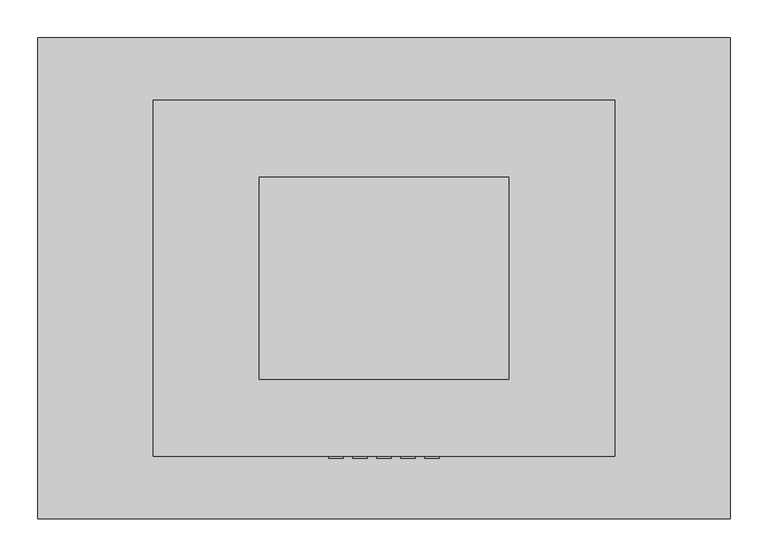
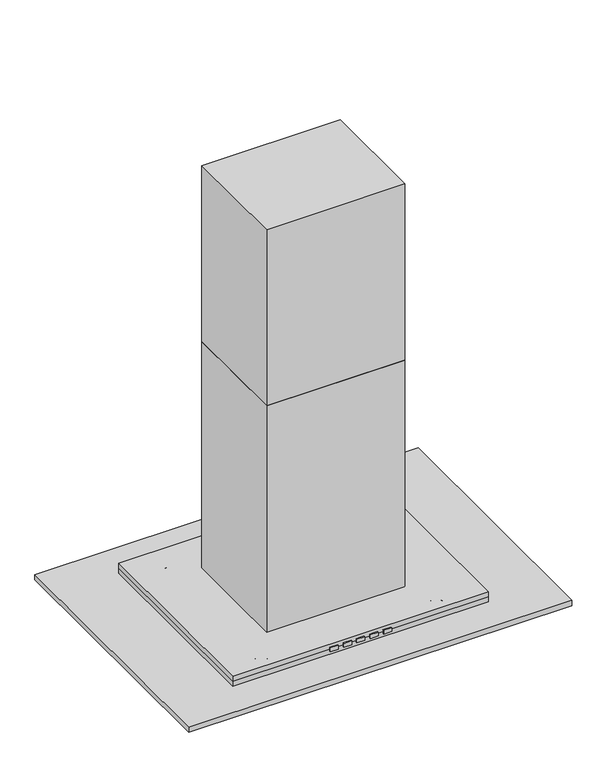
"""IFC4 building model written with IfcOpenShell, lengths in millimetres: proxy geometry, Campana rectangular - isla : Campana rectangular - isla."""

from ifc_helpers import new_model, si_unit, point, frame, frame_2d, origin, place, context, project, spatial, polyline, circle_curve, ellipse_curve, trimmed, segment, composite_curve, outline, extrude, source, transform, mapped, element, save
from ifc_brep_helpers import plane_surface, cylinder_surface, revolved_surface, advanced_brep


def specialty_equipment_230eec82(model_context):
    return source(origin(), model_context, "Body", "SolidModel", [
        extrude(outline(composite_curve([segment(trimmed(circle_curve(frame_2d((-209.0619324, -187.5094756)), 22.225), [point((-231.2869324, -187.5094756))], [point((-186.8369324, -187.5094756))], False, "CARTESIAN"), True, "CONTINUOUS"), segment(trimmed(circle_curve(frame_2d((-209.0619324, -187.5094756)), 22.225), [point((-186.8369324, -187.5094756))], [point((-231.2869324, -187.5094756))], False, "CARTESIAN"), True, "CONTINUOUS")], self_intersect=False)), frame((0.0, 0.0, 1344.6589682), z_axis=(0.0, 0.0, 1.0), x_axis=(1.0, 0.0, 0.0)), (0.0, 0.0, 1.0), 2.9942713),
        extrude(outline(composite_curve([segment(trimmed(circle_curve(frame_2d((209.0619324, -187.5094756)), 22.225), [point((186.8369324, -187.5094756))], [point((231.2869324, -187.5094756))], False, "CARTESIAN"), True, "CONTINUOUS"), segment(trimmed(circle_curve(frame_2d((209.0619324, -187.5094756)), 22.225), [point((231.2869324, -187.5094756))], [point((186.8369324, -187.5094756))], False, "CARTESIAN"), True, "CONTINUOUS")], self_intersect=False)), frame((0.0, 0.0, 1344.6589682), z_axis=(0.0, 0.0, 1.0), x_axis=(1.0, 0.0, 0.0)), (0.0, 0.0, 1.0), 2.9942713),
        extrude(outline(composite_curve([segment(trimmed(circle_curve(frame_2d((-209.0619324, 187.5094756)), 22.225), [point((-231.2869324, 187.5094756))], [point((-186.8369324, 187.5094756))], False, "CARTESIAN"), True, "CONTINUOUS"), segment(trimmed(circle_curve(frame_2d((-209.0619324, 187.5094756)), 22.225), [point((-186.8369324, 187.5094756))], [point((-231.2869324, 187.5094756))], False, "CARTESIAN"), True, "CONTINUOUS")], self_intersect=False)), frame((0.0, 0.0, 1344.6589682), z_axis=(0.0, 0.0, 1.0), x_axis=(1.0, 0.0, 0.0)), (0.0, 0.0, 1.0), 2.9942713),
        extrude(outline(composite_curve([segment(trimmed(circle_curve(frame_2d((209.0619324, 187.5094756)), 22.225), [point((186.8369324, 187.5094756))], [point((231.2869324, 187.5094756))], False, "CARTESIAN"), True, "CONTINUOUS"), segment(trimmed(circle_curve(frame_2d((209.0619324, 187.5094756)), 22.225), [point((231.2869324, 187.5094756))], [point((186.8369324, 187.5094756))], False, "CARTESIAN"), True, "CONTINUOUS")], self_intersect=False)), frame((0.0, 0.0, 1344.6589682), z_axis=(0.0, 0.0, 1.0), x_axis=(1.0, 0.0, 0.0)), (0.0, 0.0, 1.0), 2.9942713),
        extrude(outline(polyline([(-9.525, -234.95), (9.525, -234.95), (9.525, -237.6432213), (-9.525, -237.6432213), (-9.525, -234.95)])), frame((0.0, 0.0, 1366.8375), z_axis=(0.0, 0.0, 1.0), x_axis=(1.0, 0.0, 0.0)), (0.0, 0.0, 1.0), 9.525),
        extrude(outline(polyline([(22.225, -234.95), (41.275, -234.95), (41.275, -237.6432213), (22.225, -237.6432213), (22.225, -234.95)])), frame((0.0, 0.0, 1366.8375), z_axis=(0.0, 0.0, 1.0), x_axis=(1.0, 0.0, 0.0)), (0.0, 0.0, 1.0), 9.525),
        extrude(outline(polyline([(53.975, -234.95), (73.025, -234.95), (73.025, -237.6432213), (53.975, -237.6432213), (53.975, -234.95)])), frame((0.0, 0.0, 1366.8375), z_axis=(0.0, 0.0, 1.0), x_axis=(1.0, 0.0, 0.0)), (0.0, 0.0, 1.0), 9.525),
        extrude(outline(polyline([(-41.275, -234.95), (-22.225, -234.95), (-22.225, -237.6432213), (-41.275, -237.6432213), (-41.275, -234.95)])), frame((0.0, 0.0, 1366.8375), z_axis=(0.0, 0.0, 1.0), x_axis=(1.0, 0.0, 0.0)), (0.0, 0.0, 1.0), 9.525),
        extrude(outline(polyline([(-73.025, -234.95), (-53.975, -234.95), (-53.975, -237.6432213), (-73.025, -237.6432213), (-73.025, -234.95)])), frame((0.0, 0.0, 1366.8375), z_axis=(0.0, 0.0, 1.0), x_axis=(1.0, 0.0, 0.0)), (0.0, 0.0, 1.0), 9.525),
        advanced_brep(
        [(-170.9619324, 187.5094756, 1344.6589682), (-247.1619324, 187.5094756, 1344.6589682), (-247.1619324, 187.5094756, 1346.2), (-170.9619324, 187.5094756, 1346.2), (-186.4738453, 187.5094756, 1344.6589682), (-231.6500195, 187.5094756, 1344.6589682), (-186.4738453, 187.5094756, 1347.6532394), (-231.6500195, 187.5094756, 1347.6532394), (-209.0619324, 187.5094756, 1365.25), (-183.6619324, 187.5094756, 1372.6673942), (-234.4619324, 187.5094756, 1372.6673942), (-209.0619324, 187.5094756, 1372.6673942), (-183.6619324, 187.5094756, 1346.2), (-234.4619324, 187.5094756, 1346.2)],
        [
            (0, 1, circle_curve(frame((-209.0619324, 187.5094756, 1344.6589682), z_axis=(0.0, 0.0, 1.0), x_axis=(-1.0, 0.0, 0.0)), 38.1)),
            (1, 2),
            (2, 3, circle_curve(frame((-209.0619324, 187.5094756, 1346.2), z_axis=(0.0, 0.0, -1.0), x_axis=(-1.0, 0.0, 0.0)), 38.1)),
            (3, 0),
            (1, 0, circle_curve(frame((-209.0619324, 187.5094756, 1344.6589682), z_axis=(0.0, 0.0, 1.0), x_axis=(-1.0, 0.0, 0.0)), 38.1)),
            (3, 2, circle_curve(frame((-209.0619324, 187.5094756, 1346.2), z_axis=(0.0, 0.0, -1.0), x_axis=(-1.0, 0.0, 0.0)), 38.1)),
            (4, 5, circle_curve(frame((-209.0619324, 187.5094756, 1344.6589682), z_axis=(0.0, 0.0, 1.0), x_axis=(-1.0, 0.0, 0.0)), 22.5880871)),
            (5, 1),
            (0, 4),
            (5, 4, circle_curve(frame((-209.0619324, 187.5094756, 1344.6589682), z_axis=(0.0, 0.0, 1.0), x_axis=(-1.0, 0.0, 0.0)), 22.5880871)),
            (6, 7, circle_curve(frame((-209.0619324, 187.5094756, 1347.6532394), z_axis=(0.0, 0.0, 1.0), x_axis=(-1.0, 0.0, 0.0)), 22.5880871)),
            (7, 5),
            (4, 6),
            (7, 6, circle_curve(frame((-209.0619324, 187.5094756, 1347.6532394), z_axis=(0.0, 0.0, 1.0), x_axis=(-1.0, 0.0, 0.0)), 22.5880871)),
            (8, 7, circle_curve(frame((-207.8094645, 187.5094756, 1340.3462864), z_axis=(0.0, -1.0, 0.0), x_axis=(1.0, 0.0, 0.0)), 24.9351886)),
            (6, 8, circle_curve(frame((-210.3144003, 187.5094756, 1340.3462864), z_axis=(0.0, -1.0, 0.0), x_axis=(-1.0, 0.0, 0.0)), 24.9351886)),
            (9, 10, circle_curve(frame((-209.0619324, 187.5094756, 1372.6673942), z_axis=(0.0, 0.0, 1.0), x_axis=(-1.0, 0.0, 0.0)), 25.4)),
            (10, 11),
            (11, 9),
            (10, 9, circle_curve(frame((-209.0619324, 187.5094756, 1372.6673942), z_axis=(0.0, 0.0, 1.0), x_axis=(-1.0, 0.0, 0.0)), 25.4)),
            (12, 13, circle_curve(frame((-209.0619324, 187.5094756, 1346.2), z_axis=(0.0, 0.0, 1.0), x_axis=(-1.0, 0.0, 0.0)), 25.4)),
            (13, 10),
            (9, 12),
            (13, 12, circle_curve(frame((-209.0619324, 187.5094756, 1346.2), z_axis=(0.0, 0.0, 1.0), x_axis=(-1.0, 0.0, 0.0)), 25.4)),
            (2, 13),
            (12, 3),
        ],
        [
            cylinder_surface(frame((-209.0619324, 187.5094756, 1346.2), z_axis=(0.0, 0.0, -1.0), x_axis=(-1.0, 0.0, 0.0)), 38.1),
            plane_surface(frame((-209.0619324, 187.5094756, 1344.6589682), z_axis=(0.0, 0.0, -1.0), x_axis=(-1.0, 0.0, 0.0))),
            revolved_surface(polyline([(-231.65001949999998, 187.5094756, 1344.6589682), (-231.65001949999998, 187.5094756, 1347.6532394)]), (-209.0619324, 187.5094756, 1346.2), (0.0, 0.0, -1.0)),
            revolved_surface(trimmed(ellipse_curve(frame((-207.8094645, 187.5094756, 1340.3462864), z_axis=(0.0, 1.0, 0.0), x_axis=(1.0, 0.0, 0.0)), 24.9351886, 24.9351886), [point((-231.6500195, 187.5094756, 1347.6532394))], [point((-209.0619324, 187.5094756, 1365.25))], True, "CARTESIAN"), (-209.0619324, 187.5094756, 1346.2), (0.0, 0.0, -1.0)),
            plane_surface(frame((-209.0619324, 187.5094756, 1372.6673942), z_axis=(0.0, 0.0, 1.0), x_axis=(-1.0, 0.0, 0.0))),
            cylinder_surface(frame((-209.0619324, 187.5094756, 1346.2), z_axis=(0.0, 0.0, -1.0), x_axis=(-1.0, 0.0, 0.0)), 25.4),
            plane_surface(frame((-209.0619324, 187.5094756, 1346.2), z_axis=(0.0, 0.0, 1.0), x_axis=(-1.0, 0.0, 0.0))),
        ],
        [
            (0, [[1, 2, 3, 4]]),
            (0, [[5, -4, 6, -2]]),
            (1, [[7, 8, -1, 9]]),
            (1, [[10, -9, -5, -8]]),
            (2, [[11, 12, -7, 13]]),
            (2, [[14, -13, -10, -12]]),
            (3, [[15, -11, 16]]),
            (3, [[-16, -14, -15]]),
            (4, [[17, 18, 19]]),
            (4, [[20, -19, -18]]),
            (5, [[21, 22, -17, 23]]),
            (5, [[24, -23, -20, -22]]),
            (6, [[-3, 25, -21, 26]]),
            (6, [[-6, -26, -24, -25]]),
        ],
    ),
        advanced_brep(
        [(-183.6619324, -187.5094756, 1346.2), (-234.4619324, -187.5094756, 1346.2), (-247.1619324, -187.5094756, 1346.2), (-170.9619324, -187.5094756, 1346.2), (-183.6619324, -187.5094756, 1372.6673942), (-234.4619324, -187.5094756, 1372.6673942), (-209.0619324, -187.5094756, 1372.6673942), (-186.4738453, -187.5094756, 1347.6532394), (-231.6500195, -187.5094756, 1347.6532394), (-209.0619324, -187.5094756, 1365.25), (-186.4738453, -187.5094756, 1344.6589682), (-231.6500195, -187.5094756, 1344.6589682), (-170.9619324, -187.5094756, 1344.6589682), (-247.1619324, -187.5094756, 1344.6589682)],
        [
            (0, 1, circle_curve(frame((-209.0619324, -187.5094756, 1346.2), z_axis=(0.0, 0.0, -1.0), x_axis=(-1.0, 0.0, 0.0)), 25.4)),
            (1, 2),
            (2, 3, circle_curve(frame((-209.0619324, -187.5094756, 1346.2), z_axis=(0.0, 0.0, 1.0), x_axis=(-1.0, 0.0, 0.0)), 38.1)),
            (3, 0),
            (1, 0, circle_curve(frame((-209.0619324, -187.5094756, 1346.2), z_axis=(0.0, 0.0, -1.0), x_axis=(-1.0, 0.0, 0.0)), 25.4)),
            (3, 2, circle_curve(frame((-209.0619324, -187.5094756, 1346.2), z_axis=(0.0, 0.0, 1.0), x_axis=(-1.0, 0.0, 0.0)), 38.1)),
            (4, 5, circle_curve(frame((-209.0619324, -187.5094756, 1372.6673942), z_axis=(0.0, 0.0, -1.0), x_axis=(-1.0, 0.0, 0.0)), 25.4)),
            (5, 1),
            (0, 4),
            (5, 4, circle_curve(frame((-209.0619324, -187.5094756, 1372.6673942), z_axis=(0.0, 0.0, -1.0), x_axis=(-1.0, 0.0, 0.0)), 25.4)),
            (6, 5),
            (4, 6),
            (7, 8, circle_curve(frame((-209.0619324, -187.5094756, 1347.6532394), z_axis=(0.0, 0.0, -1.0), x_axis=(-1.0, 0.0, 0.0)), 22.5880871)),
            (8, 9, circle_curve(frame((-207.8094645, -187.5094756, 1340.3462864), z_axis=(0.0, 1.0, 0.0), x_axis=(1.0, 0.0, 0.0)), 24.9351886)),
            (9, 7, circle_curve(frame((-210.3144003, -187.5094756, 1340.3462864), z_axis=(0.0, 1.0, 0.0), x_axis=(-1.0, 0.0, 0.0)), 24.9351886)),
            (8, 7, circle_curve(frame((-209.0619324, -187.5094756, 1347.6532394), z_axis=(0.0, 0.0, -1.0), x_axis=(-1.0, 0.0, 0.0)), 22.5880871)),
            (10, 11, circle_curve(frame((-209.0619324, -187.5094756, 1344.6589682), z_axis=(0.0, 0.0, -1.0), x_axis=(-1.0, 0.0, 0.0)), 22.5880871)),
            (11, 8),
            (7, 10),
            (11, 10, circle_curve(frame((-209.0619324, -187.5094756, 1344.6589682), z_axis=(0.0, 0.0, -1.0), x_axis=(-1.0, 0.0, 0.0)), 22.5880871)),
            (12, 13, circle_curve(frame((-209.0619324, -187.5094756, 1344.6589682), z_axis=(0.0, 0.0, -1.0), x_axis=(-1.0, 0.0, 0.0)), 38.1)),
            (13, 11),
            (10, 12),
            (13, 12, circle_curve(frame((-209.0619324, -187.5094756, 1344.6589682), z_axis=(0.0, 0.0, -1.0), x_axis=(-1.0, 0.0, 0.0)), 38.1)),
            (2, 13),
            (12, 3),
        ],
        [
            plane_surface(frame((-209.0619324, -187.5094756, 1346.2), z_axis=(0.0, 0.0, 1.0), x_axis=(-1.0, 0.0, 0.0))),
            cylinder_surface(frame((-209.0619324, -187.5094756, 1346.2), z_axis=(0.0, 0.0, 1.0), x_axis=(-1.0, 0.0, 0.0)), 25.4),
            plane_surface(frame((-209.0619324, -187.5094756, 1372.6673942), z_axis=(0.0, 0.0, 1.0), x_axis=(-1.0, 0.0, 0.0))),
            revolved_surface(trimmed(ellipse_curve(frame((-207.8094645, -187.5094756, 1340.3462864), z_axis=(0.0, -1.0, 0.0), x_axis=(1.0, 0.0, 0.0)), 24.9351886, 24.9351886), [point((-209.0619324, -187.5094756, 1365.25))], [point((-231.6500195, -187.5094756, 1347.6532394))], True, "CARTESIAN"), (-209.0619324, -187.5094756, 1346.2), (0.0, 0.0, 1.0)),
            revolved_surface(polyline([(-231.65001949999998, -187.5094756, 1347.6532394), (-231.65001949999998, -187.5094756, 1344.6589682)]), (-209.0619324, -187.5094756, 1346.2), (0.0, 0.0, 1.0)),
            plane_surface(frame((-209.0619324, -187.5094756, 1344.6589682), z_axis=(0.0, 0.0, -1.0), x_axis=(-1.0, 0.0, 0.0))),
            cylinder_surface(frame((-209.0619324, -187.5094756, 1346.2), z_axis=(0.0, 0.0, 1.0), x_axis=(-1.0, 0.0, 0.0)), 38.1),
        ],
        [
            (0, [[1, 2, 3, 4]]),
            (0, [[5, -4, 6, -2]]),
            (1, [[7, 8, -1, 9]]),
            (1, [[10, -9, -5, -8]]),
            (2, [[11, -7, 12]]),
            (2, [[-12, -10, -11]]),
            (3, [[13, 14, 15]]),
            (3, [[16, -15, -14]]),
            (4, [[17, 18, -13, 19]]),
            (4, [[20, -19, -16, -18]]),
            (5, [[21, 22, -17, 23]]),
            (5, [[24, -23, -20, -22]]),
            (6, [[-3, 25, -21, 26]]),
            (6, [[-6, -26, -24, -25]]),
        ],
    ),
        advanced_brep(
        [(183.6619324, 187.5094756, 1346.2), (234.4619324, 187.5094756, 1346.2), (247.1619324, 187.5094756, 1346.2), (170.9619324, 187.5094756, 1346.2), (183.6619324, 187.5094756, 1372.6673942), (234.4619324, 187.5094756, 1372.6673942), (209.0619324, 187.5094756, 1372.6673942), (186.4738453, 187.5094756, 1347.6532394), (231.6500195, 187.5094756, 1347.6532394), (209.0619324, 187.5094756, 1365.25), (186.4738453, 187.5094756, 1344.6589682), (231.6500195, 187.5094756, 1344.6589682), (170.9619324, 187.5094756, 1344.6589682), (247.1619324, 187.5094756, 1344.6589682)],
        [
            (0, 1, circle_curve(frame((209.0619324, 187.5094756, 1346.2), z_axis=(0.0, 0.0, -1.0), x_axis=(1.0, 0.0, 0.0)), 25.4)),
            (1, 2),
            (2, 3, circle_curve(frame((209.0619324, 187.5094756, 1346.2), z_axis=(0.0, 0.0, 1.0), x_axis=(1.0, 0.0, 0.0)), 38.1)),
            (3, 0),
            (1, 0, circle_curve(frame((209.0619324, 187.5094756, 1346.2), z_axis=(0.0, 0.0, -1.0), x_axis=(1.0, 0.0, 0.0)), 25.4)),
            (3, 2, circle_curve(frame((209.0619324, 187.5094756, 1346.2), z_axis=(0.0, 0.0, 1.0), x_axis=(1.0, 0.0, 0.0)), 38.1)),
            (4, 5, circle_curve(frame((209.0619324, 187.5094756, 1372.6673942), z_axis=(0.0, 0.0, -1.0), x_axis=(1.0, 0.0, 0.0)), 25.4)),
            (5, 1),
            (0, 4),
            (5, 4, circle_curve(frame((209.0619324, 187.5094756, 1372.6673942), z_axis=(0.0, 0.0, -1.0), x_axis=(1.0, 0.0, 0.0)), 25.4)),
            (6, 5),
            (4, 6),
            (7, 8, circle_curve(frame((209.0619324, 187.5094756, 1347.6532394), z_axis=(0.0, 0.0, -1.0), x_axis=(1.0, 0.0, 0.0)), 22.5880871)),
            (8, 9, circle_curve(frame((207.8094645, 187.5094756, 1340.3462864), z_axis=(0.0, -1.0, 0.0), x_axis=(-1.0, 0.0, 0.0)), 24.9351886)),
            (9, 7, circle_curve(frame((210.3144003, 187.5094756, 1340.3462864), z_axis=(0.0, -1.0, 0.0), x_axis=(1.0, 0.0, 0.0)), 24.9351886)),
            (8, 7, circle_curve(frame((209.0619324, 187.5094756, 1347.6532394), z_axis=(0.0, 0.0, -1.0), x_axis=(1.0, 0.0, 0.0)), 22.5880871)),
            (10, 11, circle_curve(frame((209.0619324, 187.5094756, 1344.6589682), z_axis=(0.0, 0.0, -1.0), x_axis=(1.0, 0.0, 0.0)), 22.5880871)),
            (11, 8),
            (7, 10),
            (11, 10, circle_curve(frame((209.0619324, 187.5094756, 1344.6589682), z_axis=(0.0, 0.0, -1.0), x_axis=(1.0, 0.0, 0.0)), 22.5880871)),
            (12, 13, circle_curve(frame((209.0619324, 187.5094756, 1344.6589682), z_axis=(0.0, 0.0, -1.0), x_axis=(1.0, 0.0, 0.0)), 38.1)),
            (13, 11),
            (10, 12),
            (13, 12, circle_curve(frame((209.0619324, 187.5094756, 1344.6589682), z_axis=(0.0, 0.0, -1.0), x_axis=(1.0, 0.0, 0.0)), 38.1)),
            (2, 13),
            (12, 3),
        ],
        [
            plane_surface(frame((209.0619324, 187.5094756, 1346.2), z_axis=(0.0, 0.0, 1.0), x_axis=(1.0, 0.0, 0.0))),
            cylinder_surface(frame((209.0619324, 187.5094756, 1346.2), z_axis=(0.0, 0.0, 1.0), x_axis=(1.0, 0.0, 0.0)), 25.4),
            plane_surface(frame((209.0619324, 187.5094756, 1372.6673942), z_axis=(0.0, 0.0, 1.0), x_axis=(1.0, 0.0, 0.0))),
            revolved_surface(trimmed(ellipse_curve(frame((207.8094645, 187.5094756, 1340.3462864), z_axis=(0.0, 1.0, 0.0), x_axis=(-1.0, 0.0, 0.0)), 24.9351886, 24.9351886), [point((209.0619324, 187.5094756, 1365.25))], [point((231.6500195, 187.5094756, 1347.6532394))], True, "CARTESIAN"), (209.0619324, 187.5094756, 1346.2), (0.0, 0.0, 1.0)),
            revolved_surface(polyline([(231.65001949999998, 187.5094756, 1347.6532394), (231.65001949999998, 187.5094756, 1344.6589682)]), (209.0619324, 187.5094756, 1346.2), (0.0, 0.0, 1.0)),
            plane_surface(frame((209.0619324, 187.5094756, 1344.6589682), z_axis=(0.0, 0.0, -1.0), x_axis=(1.0, 0.0, 0.0))),
            cylinder_surface(frame((209.0619324, 187.5094756, 1346.2), z_axis=(0.0, 0.0, 1.0), x_axis=(1.0, 0.0, 0.0)), 38.1),
        ],
        [
            (0, [[1, 2, 3, 4]]),
            (0, [[5, -4, 6, -2]]),
            (1, [[7, 8, -1, 9]]),
            (1, [[10, -9, -5, -8]]),
            (2, [[11, -7, 12]]),
            (2, [[-12, -10, -11]]),
            (3, [[13, 14, 15]]),
            (3, [[16, -15, -14]]),
            (4, [[17, 18, -13, 19]]),
            (4, [[20, -19, -16, -18]]),
            (5, [[21, 22, -17, 23]]),
            (5, [[24, -23, -20, -22]]),
            (6, [[-3, 25, -21, 26]]),
            (6, [[-6, -26, -24, -25]]),
        ],
    ),
        extrude(outline(polyline([(1358.9, 241.3), (1358.9, -241.3), (1346.2, -241.3), (1346.2, -236.5375), (1352.55, -236.5375), (1352.55, -233.3625), (1349.375, -233.3625), (1349.375, -230.1875), (1352.55, -230.1875), (1352.55, -227.0125), (1349.375, -227.0125), (1349.375, -223.8375), (1352.55, -223.8375), (1352.55, -220.6625), (1349.375, -220.6625), (1349.375, -217.4875), (1352.55, -217.4875), (1352.55, -214.3125), (1349.375, -214.3125), (1349.375, -211.1375), (1352.55, -211.1375), (1352.55, -207.9625), (1349.375, -207.9625), (1349.375, -204.7875), (1352.55, -204.7875), (1352.55, -201.6125), (1349.375, -201.6125), (1349.375, -198.4375), (1352.55, -198.4375), (1352.55, -195.2625), (1349.375, -195.2625), (1349.375, -192.0875), (1352.55, -192.0875), (1352.55, -188.9125), (1349.375, -188.9125), (1349.375, -185.7375), (1352.55, -185.7375), (1352.55, -182.5625), (1349.375, -182.5625), (1349.375, -179.3875), (1352.55, -179.3875), (1352.55, -176.2125), (1349.375, -176.2125), (1349.375, -173.0375), (1352.55, -173.0375), (1352.55, -169.8625), (1349.375, -169.8625), (1349.375, -166.6875), (1352.55, -166.6875), (1352.55, -163.5125), (1349.375, -163.5125), (1349.375, -160.3375), (1352.55, -160.3375), (1352.55, -157.1625), (1349.375, -157.1625), (1349.375, -153.9875), (1352.55, -153.9875), (1352.55, -150.8125), (1349.375, -150.8125), (1349.375, -147.6375), (1352.55, -147.6375), (1352.55, -144.4625), (1349.375, -144.4625), (1349.375, -141.2875), (1352.55, -141.2875), (1352.55, -138.1125), (1349.375, -138.1125), (1349.375, -134.9375), (1352.55, -134.9375), (1352.55, -131.7625), (1349.375, -131.7625), (1349.375, -128.5875), (1352.55, -128.5875), (1352.55, -125.4125), (1349.375, -125.4125), (1349.375, -122.2375), (1352.55, -122.2375), (1352.55, -119.0625), (1349.375, -119.0625), (1349.375, -115.8875), (1352.55, -115.8875), (1352.55, -112.7125), (1349.375, -112.7125), (1349.375, -109.5375), (1352.55, -109.5375), (1352.55, -106.3625), (1349.375, -106.3625), (1349.375, -103.1875), (1352.55, -103.1875), (1352.55, -100.0125), (1349.375, -100.0125), (1349.375, -96.8375), (1352.55, -96.8375), (1352.55, -93.6625), (1349.375, -93.6625), (1349.375, -90.4875), (1352.55, -90.4875), (1352.55, -87.3125), (1349.375, -87.3125), (1349.375, -84.1375), (1352.55, -84.1375), (1352.55, -80.9625), (1349.375, -80.9625), (1349.375, -77.7875), (1352.55, -77.7875), (1352.55, -74.6125), (1349.375, -74.6125), (1349.375, -71.4375), (1352.55, -71.4375), (1352.55, -68.2625), (1349.375, -68.2625), (1349.375, -65.0875), (1352.55, -65.0875), (1352.55, -61.9125), (1349.375, -61.9125), (1349.375, -58.7375), (1352.55, -58.7375), (1352.55, -55.5625), (1349.375, -55.5625), (1349.375, -52.3875), (1352.55, -52.3875), (1352.55, -49.2125), (1349.375, -49.2125), (1349.375, -46.0375), (1352.55, -46.0375), (1352.55, -42.8625), (1349.375, -42.8625), (1349.375, -39.6875), (1352.55, -39.6875), (1352.55, -36.5125), (1349.375, -36.5125), (1349.375, -33.3375), (1352.55, -33.3375), (1352.55, -30.1625), (1349.375, -30.1625), (1349.375, -26.9875), (1352.55, -26.9875), (1352.55, -23.8125), (1349.375, -23.8125), (1349.375, -20.6375), (1352.55, -20.6375), (1352.55, -17.4625), (1349.375, -17.4625), (1349.375, -14.2875), (1352.55, -14.2875), (1352.55, -11.1125), (1349.375, -11.1125), (1349.375, -7.9375), (1352.55, -7.9375), (1352.55, -4.7625), (1346.2, -4.7625), (1346.2, 4.7625), (1352.55, 4.7625), (1352.55, 7.9375), (1349.375, 7.9375), (1349.375, 11.1125), (1352.55, 11.1125), (1352.55, 14.2875), (1349.375, 14.2875), (1349.375, 17.4625), (1352.55, 17.4625), (1352.55, 20.6375), (1349.375, 20.6375), (1349.375, 23.8125), (1352.55, 23.8125), (1352.55, 26.9875), (1349.375, 26.9875), (1349.375, 30.1625), (1352.55, 30.1625), (1352.55, 33.3375), (1349.375, 33.3375), (1349.375, 36.5125), (1352.55, 36.5125), (1352.55, 39.6875), (1349.375, 39.6875), (1349.375, 42.8625), (1352.55, 42.8625), (1352.55, 46.0375), (1349.375, 46.0375), (1349.375, 49.2125), (1352.55, 49.2125), (1352.55, 52.3875), (1349.375, 52.3875), (1349.375, 55.5625), (1352.55, 55.5625), (1352.55, 58.7375), (1349.375, 58.7375), (1349.375, 61.9125), (1352.55, 61.9125), (1352.55, 65.0875), (1349.375, 65.0875), (1349.375, 68.2625), (1352.55, 68.2625), (1352.55, 71.4375), (1349.375, 71.4375), (1349.375, 74.6125), (1352.55, 74.6125), (1352.55, 77.7875), (1349.375, 77.7875), (1349.375, 80.9625), (1352.55, 80.9625), (1352.55, 84.1375), (1349.375, 84.1375), (1349.375, 87.3125), (1352.55, 87.3125), (1352.55, 90.4875), (1349.375, 90.4875), (1349.375, 93.6625), (1352.55, 93.6625), (1352.55, 96.8375), (1349.375, 96.8375), (1349.375, 100.0125), (1352.55, 100.0125), (1352.55, 103.1875), (1349.375, 103.1875), (1349.375, 106.3625), (1352.55, 106.3625), (1352.55, 109.5375), (1349.375, 109.5375), (1349.375, 112.7125), (1352.55, 112.7125), (1352.55, 115.8875), (1349.375, 115.8875), (1349.375, 119.0625), (1352.55, 119.0625), (1352.55, 122.2375), (1349.375, 122.2375), (1349.375, 125.4125), (1352.55, 125.4125), (1352.55, 128.5875), (1349.375, 128.5875), (1349.375, 131.7625), (1352.55, 131.7625), (1352.55, 134.9375), (1349.375, 134.9375), (1349.375, 138.1125), (1352.55, 138.1125), (1352.55, 141.2875), (1349.375, 141.2875), (1349.375, 144.4625), (1352.55, 144.4625), (1352.55, 147.6375), (1349.375, 147.6375), (1349.375, 150.8125), (1352.55, 150.8125), (1352.55, 153.9875), (1349.375, 153.9875), (1349.375, 157.1625), (1352.55, 157.1625), (1352.55, 160.3375), (1349.375, 160.3375), (1349.375, 163.5125), (1352.55, 163.5125), (1352.55, 166.6875), (1349.375, 166.6875), (1349.375, 169.8625), (1352.55, 169.8625), (1352.55, 173.0375), (1349.375, 173.0375), (1349.375, 176.2125), (1352.55, 176.2125), (1352.55, 179.3875), (1349.375, 179.3875), (1349.375, 182.5625), (1352.55, 182.5625), (1352.55, 185.7375), (1349.375, 185.7375), (1349.375, 188.9125), (1352.55, 188.9125), (1352.55, 192.0875), (1349.375, 192.0875), (1349.375, 195.2625), (1352.55, 195.2625), (1352.55, 198.4375), (1349.375, 198.4375), (1349.375, 201.6125), (1352.55, 201.6125), (1352.55, 204.7875), (1349.375, 204.7875), (1349.375, 207.9625), (1352.55, 207.9625), (1352.55, 211.1375), (1349.375, 211.1375), (1349.375, 214.3125), (1352.55, 214.3125), (1352.55, 217.4875), (1349.375, 217.4875), (1349.375, 220.6625), (1352.55, 220.6625), (1352.55, 223.8375), (1349.375, 223.8375), (1349.375, 227.0125), (1352.55, 227.0125), (1352.55, 230.1875), (1349.375, 230.1875), (1349.375, 233.3625), (1352.55, 233.3625), (1352.55, 236.5375), (1346.2, 236.5375), (1346.2, 241.3), (1358.9, 241.3)])), frame((0.0, -127.0, 0.0), z_axis=(0.0, 1.0, 0.0), x_axis=(0.0, 0.0, 1.0)), (0.0, 0.0, 1.0), 254.0),
        extrude(outline(polyline([(-304.8, 234.95), (304.8, 234.95), (304.8, -234.95), (-304.8, -234.95), (-304.8, 234.95)])), frame((0.0, 0.0, 1371.6), z_axis=(0.0, 0.0, 1.0), x_axis=(1.0, 0.0, 0.0)), (0.0, 0.0, 1.0), 12.7),
        advanced_brep(
        [(170.9619324, -187.5094756, 1344.6589682), (247.1619324, -187.5094756, 1344.6589682), (247.1619324, -187.5094756, 1346.2), (170.9619324, -187.5094756, 1346.2), (186.4738453, -187.5094756, 1344.6589682), (231.6500195, -187.5094756, 1344.6589682), (186.4738453, -187.5094756, 1347.6532394), (231.6500195, -187.5094756, 1347.6532394), (209.0619324, -187.5094756, 1365.25), (183.6619324, -187.5094756, 1372.6673942), (234.4619324, -187.5094756, 1372.6673942), (209.0619324, -187.5094756, 1372.6673942), (183.6619324, -187.5094756, 1346.2), (234.4619324, -187.5094756, 1346.2)],
        [
            (0, 1, circle_curve(frame((209.0619324, -187.5094756, 1344.6589682), z_axis=(0.0, 0.0, 1.0), x_axis=(1.0, 0.0, 0.0)), 38.1)),
            (1, 2),
            (2, 3, circle_curve(frame((209.0619324, -187.5094756, 1346.2), z_axis=(0.0, 0.0, -1.0), x_axis=(1.0, 0.0, 0.0)), 38.1)),
            (3, 0),
            (1, 0, circle_curve(frame((209.0619324, -187.5094756, 1344.6589682), z_axis=(0.0, 0.0, 1.0), x_axis=(1.0, 0.0, 0.0)), 38.1)),
            (3, 2, circle_curve(frame((209.0619324, -187.5094756, 1346.2), z_axis=(0.0, 0.0, -1.0), x_axis=(1.0, 0.0, 0.0)), 38.1)),
            (4, 5, circle_curve(frame((209.0619324, -187.5094756, 1344.6589682), z_axis=(0.0, 0.0, 1.0), x_axis=(1.0, 0.0, 0.0)), 22.5880871)),
            (5, 1),
            (0, 4),
            (5, 4, circle_curve(frame((209.0619324, -187.5094756, 1344.6589682), z_axis=(0.0, 0.0, 1.0), x_axis=(1.0, 0.0, 0.0)), 22.5880871)),
            (6, 7, circle_curve(frame((209.0619324, -187.5094756, 1347.6532394), z_axis=(0.0, 0.0, 1.0), x_axis=(1.0, 0.0, 0.0)), 22.5880871)),
            (7, 5),
            (4, 6),
            (7, 6, circle_curve(frame((209.0619324, -187.5094756, 1347.6532394), z_axis=(0.0, 0.0, 1.0), x_axis=(1.0, 0.0, 0.0)), 22.5880871)),
            (8, 7, circle_curve(frame((207.8094645, -187.5094756, 1340.3462864), z_axis=(0.0, 1.0, 0.0), x_axis=(-1.0, 0.0, 0.0)), 24.9351886)),
            (6, 8, circle_curve(frame((210.3144003, -187.5094756, 1340.3462864), z_axis=(0.0, 1.0, 0.0), x_axis=(1.0, 0.0, 0.0)), 24.9351886)),
            (9, 10, circle_curve(frame((209.0619324, -187.5094756, 1372.6673942), z_axis=(0.0, 0.0, 1.0), x_axis=(1.0, 0.0, 0.0)), 25.4)),
            (10, 11),
            (11, 9),
            (10, 9, circle_curve(frame((209.0619324, -187.5094756, 1372.6673942), z_axis=(0.0, 0.0, 1.0), x_axis=(1.0, 0.0, 0.0)), 25.4)),
            (12, 13, circle_curve(frame((209.0619324, -187.5094756, 1346.2), z_axis=(0.0, 0.0, 1.0), x_axis=(1.0, 0.0, 0.0)), 25.4)),
            (13, 10),
            (9, 12),
            (13, 12, circle_curve(frame((209.0619324, -187.5094756, 1346.2), z_axis=(0.0, 0.0, 1.0), x_axis=(1.0, 0.0, 0.0)), 25.4)),
            (2, 13),
            (12, 3),
        ],
        [
            cylinder_surface(frame((209.0619324, -187.5094756, 1346.2), z_axis=(0.0, 0.0, -1.0), x_axis=(1.0, 0.0, 0.0)), 38.1),
            plane_surface(frame((209.0619324, -187.5094756, 1344.6589682), z_axis=(0.0, 0.0, -1.0), x_axis=(1.0, 0.0, 0.0))),
            revolved_surface(polyline([(231.65001949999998, -187.5094756, 1344.6589682), (231.65001949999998, -187.5094756, 1347.6532394)]), (209.0619324, -187.5094756, 1346.2), (0.0, 0.0, -1.0)),
            revolved_surface(trimmed(ellipse_curve(frame((207.8094645, -187.5094756, 1340.3462864), z_axis=(0.0, -1.0, 0.0), x_axis=(-1.0, 0.0, 0.0)), 24.9351886, 24.9351886), [point((231.6500195, -187.5094756, 1347.6532394))], [point((209.0619324, -187.5094756, 1365.25))], True, "CARTESIAN"), (209.0619324, -187.5094756, 1346.2), (0.0, 0.0, -1.0)),
            plane_surface(frame((209.0619324, -187.5094756, 1372.6673942), z_axis=(0.0, 0.0, 1.0), x_axis=(1.0, 0.0, 0.0))),
            cylinder_surface(frame((209.0619324, -187.5094756, 1346.2), z_axis=(0.0, 0.0, -1.0), x_axis=(1.0, 0.0, 0.0)), 25.4),
            plane_surface(frame((209.0619324, -187.5094756, 1346.2), z_axis=(0.0, 0.0, 1.0), x_axis=(1.0, 0.0, 0.0))),
        ],
        [
            (0, [[1, 2, 3, 4]]),
            (0, [[5, -4, 6, -2]]),
            (1, [[7, 8, -1, 9]]),
            (1, [[10, -9, -5, -8]]),
            (2, [[11, 12, -7, 13]]),
            (2, [[14, -13, -10, -12]]),
            (3, [[15, -11, 16]]),
            (3, [[-16, -14, -15]]),
            (4, [[17, 18, 19]]),
            (4, [[20, -19, -18]]),
            (5, [[21, 22, -17, 23]]),
            (5, [[24, -23, -20, -22]]),
            (6, [[-3, 25, -21, 26]]),
            (6, [[-6, -26, -24, -25]]),
        ],
    ),
        extrude(outline(polyline([(457.2, 317.5), (457.2, -317.5), (-457.2, -317.5), (-457.2, 317.5), (457.2, 317.5)]), holes=[polyline([(304.8, -234.95), (304.8, 234.95), (-304.8, 234.95), (-304.8, -234.95), (304.8, -234.95)])]), frame((0.0, 0.0, 1346.2), z_axis=(0.0, 0.0, 1.0), x_axis=(1.0, 0.0, 0.0)), (0.0, 0.0, 1.0), 12.7),
        extrude(outline(polyline([(-304.8, 234.95), (304.8, 234.95), (304.8, -234.95), (-304.8, -234.95), (-304.8, 234.95)]), holes=[composite_curve([segment(trimmed(circle_curve(frame_2d((-209.0619324, -187.5094756)), 25.4), [point((-209.0619324, -162.1094756))], [point((-209.0619324, -212.9094756))], True, "CARTESIAN"), True, "CONTINUOUS"), segment(trimmed(circle_curve(frame_2d((-209.0619324, -187.5094756)), 25.4), [point((-209.0619324, -212.9094756))], [point((-209.0619324, -162.1094756))], True, "CARTESIAN"), True, "CONTINUOUS")], self_intersect=False), composite_curve([segment(trimmed(circle_curve(frame_2d((-209.0619324, 187.5094756)), 25.4), [point((-209.0619324, 212.9094756))], [point((-209.0619324, 162.1094756))], True, "CARTESIAN"), True, "CONTINUOUS"), segment(trimmed(circle_curve(frame_2d((-209.0619324, 187.5094756)), 25.4), [point((-209.0619324, 162.1094756))], [point((-209.0619324, 212.9094756))], True, "CARTESIAN"), True, "CONTINUOUS")], self_intersect=False), composite_curve([segment(trimmed(circle_curve(frame_2d((209.0619324, -187.5094756)), 25.4), [point((209.0619324, -162.1094756))], [point((209.0619324, -212.9094756))], True, "CARTESIAN"), True, "CONTINUOUS"), segment(trimmed(circle_curve(frame_2d((209.0619324, -187.5094756)), 25.4), [point((209.0619324, -212.9094756))], [point((209.0619324, -162.1094756))], True, "CARTESIAN"), True, "CONTINUOUS")], self_intersect=False), composite_curve([segment(trimmed(circle_curve(frame_2d((209.0619324, 187.5094756)), 25.4), [point((209.0619324, 212.9094756))], [point((209.0619324, 162.1094756))], True, "CARTESIAN"), True, "CONTINUOUS"), segment(trimmed(circle_curve(frame_2d((209.0619324, 187.5094756)), 25.4), [point((209.0619324, 162.1094756))], [point((209.0619324, 212.9094756))], True, "CARTESIAN"), True, "CONTINUOUS")], self_intersect=False), polyline([(241.3, -127.0), (241.3, 127.0), (-241.3, 127.0), (-241.3, -127.0), (241.3, -127.0)])]), frame((0.0, 0.0, 1346.2), z_axis=(0.0, 0.0, 1.0), x_axis=(1.0, 0.0, 0.0)), (0.0, 0.0, 1.0), 25.4),
        extrude(outline(polyline([(165.1, -133.35), (-165.1, -133.35), (-165.1, 133.35), (165.1, 133.35), (165.1, -133.35)])), frame((0.0, 0.0, 1384.3), z_axis=(0.0, 0.0, 1.0), x_axis=(1.0, 0.0, 0.0)), (0.0, 0.0, 1.0), 571.5),
        extrude(outline(polyline([(-165.1, 133.35), (165.1, 133.35), (165.1, -133.35), (-165.1, -133.35), (-165.1, 133.35)])), frame((0.0, 0.0, 1955.8), z_axis=(0.0, 0.0, 1.0), x_axis=(1.0, 0.0, 0.0)), (0.0, 0.0, 1.0), 444.2),
    ])


if __name__ == "__main__":
    model = new_model("IFC4")
    model_context = context("Model", 3, world=origin())
    ifc_project = project(units=[si_unit("LENGTHUNIT", "METRE", prefix="MILLI")], contexts=[model_context])
    site = spatial("IfcSite", under=ifc_project)
    building = spatial("IfcBuilding", under=site)
    placement = place(None, origin())
    specialty_equipment_shape = specialty_equipment_230eec82(model_context)
    element("IfcBuildingElementProxy", 1, Name="Campana rectangular - isla : Campana rectangular - isla", ObjectType="Campana rectangular - isla : Campana rectangular - isla", at=placement, inside=building, context=model_context, shape_type="MappedRepresentation", body=[
        mapped(specialty_equipment_shape, transform((0.0, 0.0, 0.0), x_axis=(1.0, 0.0, 0.0), y_axis=(0.0, 1.0, 0.0), z_axis=(0.0, 0.0, 1.0))),
    ])
    save(model, "model.ifc")
